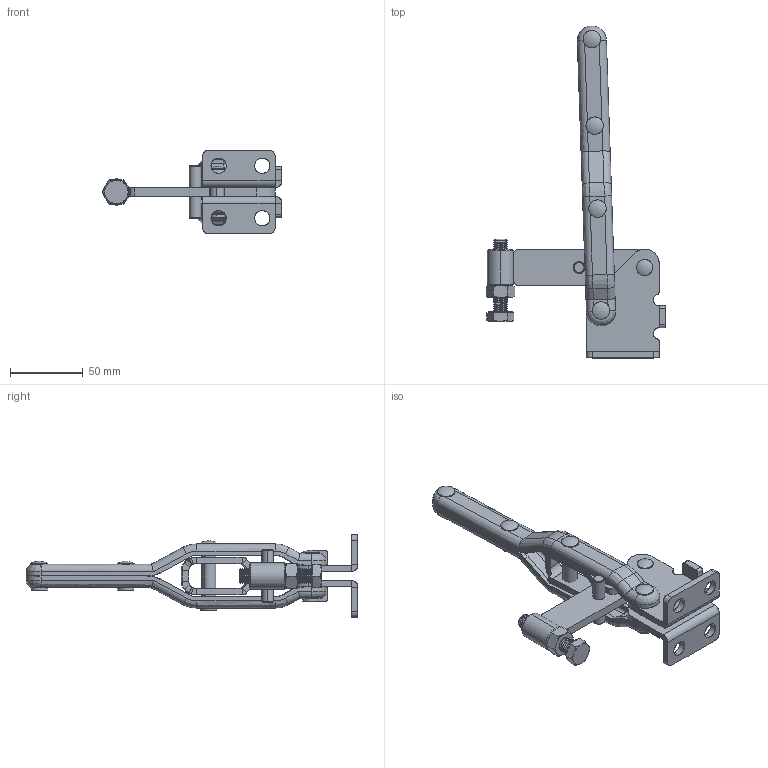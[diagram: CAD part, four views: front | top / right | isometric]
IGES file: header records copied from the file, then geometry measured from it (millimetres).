
Start section: SolidWorks IGES file using analytic representation for surfaces
Global section: file name: \\BARTOP_SV6\share\SOLIDWORKS\工具事業部\坂入用\Toggle clamp\ISK-44A0\ISK-44A0.IGS; native system: SolidWorks 2015; preprocessor: SolidWorks 2015; author: SOLID02; date: 150731.170345; units: millimetre
Bounding box: 123.44 x 227.89 x 57 mm (x, y, z)
Surface area: 70376.2 mm2 (no closed solid volume)
Topology: 0 solids, 0 shells, 682 faces, 7490 edges, 7490 vertices
Faces by surface type: revolution 454, bspline 228
